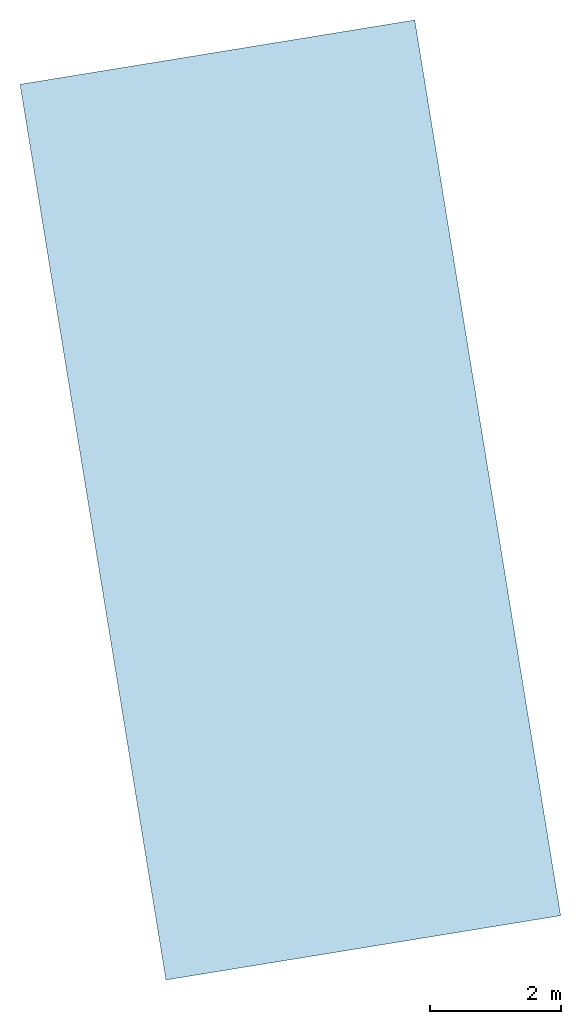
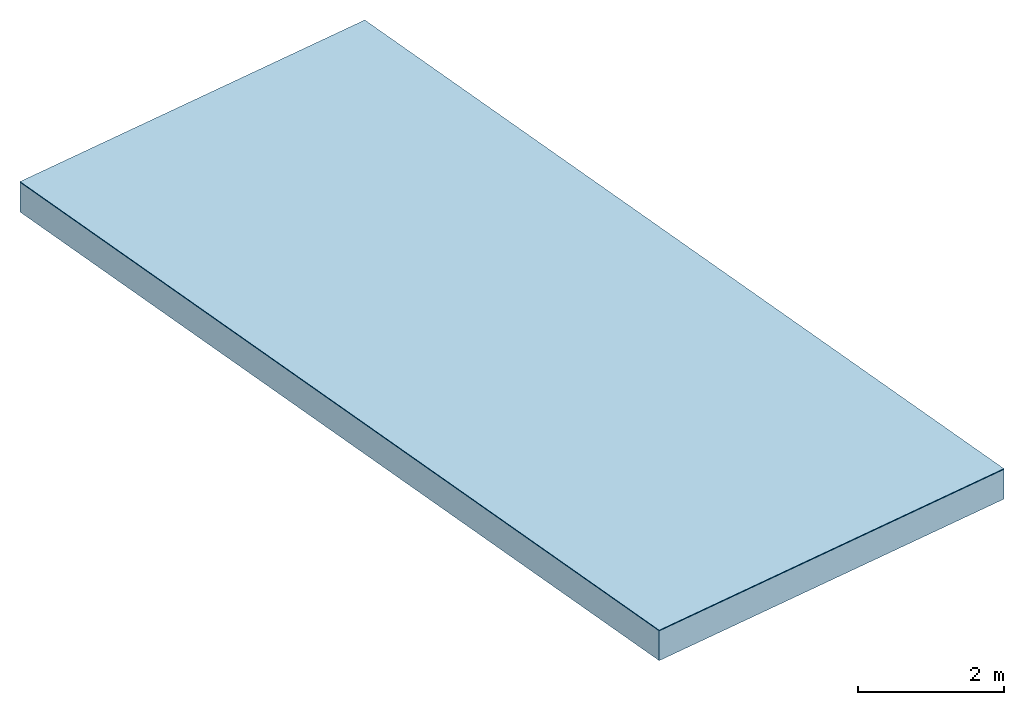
# One storey: 2 slabs.
"""IFC2X3 building model written with IfcOpenShell, lengths in millimetres."""

import ifcopenshell
import ifcopenshell.guid

model = None  # the IFC model being written
_history = None  # IfcOwnerHistory: only IFC2X3 demands one
_inside = {}  # id of a spatial element -> (the spatial element, [elements in it])
_under = {}  # id of a project, library or spatial element -> (it, [spatial elements below it])
_declared = {}  # id of a project -> (the project, [libraries it declares])
_typed = {}  # id of a type object -> (the type object, [elements of that type])
_made_of = {}  # id of a material, layer set ... -> (it, [elements and type objects made of it])


def new_model(schema):
    """Start an empty IFC model of exactly this schema.

    Asked for "IFC4X3", IfcOpenShell would pick the latest addendum, in which some entities
    have other attributes; the version numbers below select the first issue.
    IFC2X3 requires an IfcOwnerHistory on every rooted entity: one is made here for all.
    """
    global model, _history
    if schema == "IFC4X3":
        model = ifcopenshell.file(schema_version=(4, 3, 0, 0))
    else:
        model = ifcopenshell.file(schema=schema)
    _inside.clear()
    _under.clear()
    _declared.clear()
    _typed.clear()
    _made_of.clear()
    _history = None
    if model.schema == "IFC2X3":
        org = make("IfcOrganization", Name="unknown")
        user = make(
            "IfcPersonAndOrganization",
            ThePerson=make("IfcPerson", FamilyName="unknown"),
            TheOrganization=org,
        )
        app = make(
            "IfcApplication",
            ApplicationDeveloper=org,
            Version="unknown",
            ApplicationFullName="unknown",
            ApplicationIdentifier="unknown",
        )
        _history = make(
            "IfcOwnerHistory",
            OwningUser=user,
            OwningApplication=app,
            ChangeAction="ADDED",
            CreationDate=0,
        )
    return model


def make(cls, **values):
    """One entity of the class cls with the attributes given. An attribute that is None is left unset."""
    return model.create_entity(
        cls, **{name: value for name, value in values.items() if value is not None}
    )


def entity(cls, *values):
    """Any entity or typed value of the class cls, its attributes in the order of the schema. None: left unset."""
    e = model.create_entity(cls)
    for i, value in enumerate(values):
        if value is not None:
            e[i] = value
    return e


def rooted(cls, **values):
    """An entity with a GlobalId (a new one), such as an element, a storey or a relation."""
    return make(cls, GlobalId=ifcopenshell.guid.new(), OwnerHistory=_history, **values)


def si_unit(unit_type, name, prefix=None):
    """IfcSIUnit, for example si_unit("LENGTHUNIT", "METRE", prefix="MILLI")."""
    return make("IfcSIUnit", UnitType=unit_type, Prefix=prefix, Name=name)


def converted_unit(unit_type, name, factor, base, dimensions=None, offset=None):
    """IfcConversionBasedUnit, such as the inch: factor (a typed value) times the base unit."""
    return make(
        "IfcConversionBasedUnit"
        if offset is None
        else "IfcConversionBasedUnitWithOffset",
        ConversionOffset=offset,
        Dimensions=None
        if dimensions is None
        else entity("IfcDimensionalExponents", *dimensions),
        UnitType=unit_type,
        Name=name,
        ConversionFactor=make(
            "IfcMeasureWithUnit", ValueComponent=factor, UnitComponent=base
        ),
    )


def derived_unit(unit_type, elements):
    """IfcDerivedUnit: a product of units, each with its exponent."""
    return make(
        "IfcDerivedUnit",
        Elements=[
            make("IfcDerivedUnitElement", Unit=unit, Exponent=power)
            for unit, power in elements
        ],
        UnitType=unit_type,
    )


def assignment(units):
    """IfcUnitAssignment: the units of a project."""
    return None if units is None else make("IfcUnitAssignment", Units=units)


def point(xyz):
    """IfcCartesianPoint."""
    return None if xyz is None else make("IfcCartesianPoint", Coordinates=xyz)


def direction(xyz):
    """IfcDirection."""
    return None if xyz is None else make("IfcDirection", DirectionRatios=xyz)


def frame(location, z_axis=None, x_axis=None):
    """IfcAxis2Placement3D, a coordinate frame: its origin and axes. An axis left out is left unset."""
    return make(
        "IfcAxis2Placement3D",
        Location=point(location),
        Axis=direction(z_axis),
        RefDirection=direction(x_axis),
    )


def origin():
    """The frame at (0, 0, 0) with its axes left unset."""
    return frame((0.0, 0.0, 0.0))


def origin_with_axes():
    """The frame at (0, 0, 0) with the z axis (0, 0, 1) and the x axis (1, 0, 0) written out."""
    return frame((0.0, 0.0, 0.0), z_axis=(0.0, 0.0, 1.0), x_axis=(1.0, 0.0, 0.0))


def place(relative_to, where):
    """IfcLocalPlacement: puts the frame where relative to a parent placement (None: the world)."""
    return make(
        "IfcLocalPlacement", PlacementRelTo=relative_to, RelativePlacement=where
    )


def context(
    kind, dimensions, precision=None, world=None, true_north=None, identifier=None
):
    """IfcGeometricRepresentationContext, for example the 3D "Model" context."""
    return make(
        "IfcGeometricRepresentationContext",
        ContextIdentifier=identifier,
        ContextType=kind,
        CoordinateSpaceDimension=dimensions,
        Precision=precision,
        WorldCoordinateSystem=world,
        TrueNorth=true_north,
    )


def subcontext(parent, identifier, kind, view, scale=None):
    """IfcGeometricRepresentationSubContext, for example "Body" below "Model"."""
    return make(
        "IfcGeometricRepresentationSubContext",
        ContextIdentifier=identifier,
        ContextType=kind,
        ParentContext=parent,
        TargetScale=scale,
        TargetView=view,
    )


def project(units=None, contexts=None):
    """IfcProject with its units and contexts."""
    return rooted(
        "IfcProject",
        Name="project",
        RepresentationContexts=contexts,
        UnitsInContext=assignment(units),
    )


def spatial(cls, under=None, at=None, **own):
    """A site, building, storey or space (cls), placed at a placement, below another one or the project."""
    s = rooted(cls, ObjectPlacement=at, **own)
    if under is not None:
        _under.setdefault(under.id(), (under, []))[1].append(s)
    return s


def faces_of(points, faces, orient=None, outer=None):
    """IfcFace entities. A face is a list of loops; a loop is a list of indices into points, from 0.

    orient and outer hold one flag for each loop. By default every Orientation is true, the
    first loop of a face is its IfcFaceOuterBound and the others are IfcFaceBound.
    """
    made = []
    for i, loops in enumerate(faces):
        bounds = []
        for j, loop in enumerate(loops):
            is_outer = j == 0 if outer is None else outer[i][j]
            bounds.append(
                make(
                    "IfcFaceOuterBound" if is_outer else "IfcFaceBound",
                    Bound=make("IfcPolyLoop", Polygon=[points[k] for k in loop]),
                    Orientation=True if orient is None else orient[i][j],
                )
            )
        made.append(make("IfcFace", Bounds=bounds))
    return made


def faceted_brep(points, faces, orient=None, outer=None, voids=None):
    """IfcFacetedBrep: a solid bounded by flat faces; with voids (closed shells), ...WithVoids."""
    shared = [point(p) for p in points]
    hull = make("IfcClosedShell", CfsFaces=faces_of(shared, faces, orient, outer))
    if voids is None:
        return make("IfcFacetedBrep", Outer=hull)
    return make(
        "IfcFacetedBrepWithVoids",
        Outer=hull,
        Voids=[
            make(cls, CfsFaces=faces_of(shared, fs, o, b)) for cls, fs, o, b in voids
        ],
    )


def shape(context_of_items, identifier, shape_type, items):
    """IfcShapeRepresentation: the items that make up one representation, for example the "Body"."""
    return make(
        "IfcShapeRepresentation",
        ContextOfItems=context_of_items,
        RepresentationIdentifier=identifier,
        RepresentationType=shape_type,
        Items=items,
    )


def material(Name=None, Category=None):
    """IfcMaterial."""
    return make("IfcMaterial", Name=Name, Category=Category)


def layer(
    of_material, thickness, ventilated=None, Name=None, Category=None, Priority=None
):
    """IfcMaterialLayer: one layer of a wall or slab, of a material (None: an air gap)."""
    return make(
        "IfcMaterialLayer",
        Material=of_material,
        LayerThickness=thickness,
        IsVentilated=ventilated,
        Name=Name,
        Category=Category,
        Priority=Priority,
    )


def layer_set(layers, Name=None):
    """IfcMaterialLayerSet."""
    return make("IfcMaterialLayerSet", MaterialLayers=layers, LayerSetName=Name)


def made_of(thing, what):
    """Note that an element or type object is made of a material, layer set ...; save() writes the relation."""
    if what is not None:
        _made_of.setdefault(what.id(), (what, []))[1].append(thing)
    return thing


def type_object(cls, material=None, **own):
    """A type object (cls), such as IfcWallType, which elements share."""
    return made_of(rooted(cls, **own), material)


def element(
    cls,
    number,
    at=None,
    inside=None,
    cuts=None,
    type_object=None,
    material=None,
    context=None,
    identifier="Body",
    shape_type=None,
    held_by="IfcProductDefinitionShape",
    body=None,
    shapes=None,
    **own,
):
    """One element of the class cls, such as IfcWall. Its Tag is "e" and its number.

    at: its placement. inside: the storey or other place that contains it. cuts: it is an
    opening in that element (IfcRelVoidsElement). A single representation is given by context,
    identifier, shape_type and body (its items); several are given by shapes. held_by: the class
    of the entity that holds the representations. save() writes the other relations.
    """
    e = rooted(cls, Tag="e%d" % number, ObjectPlacement=at, **own)
    if body is not None:
        shapes = [shape(context, identifier, shape_type, body)]
    if shapes is not None:
        e.Representation = make(held_by, Representations=shapes)
    if inside is not None:
        _inside.setdefault(inside.id(), (inside, []))[1].append(e)
    if cuts is not None:
        rooted(
            "IfcRelVoidsElement", RelatingBuildingElement=cuts, RelatedOpeningElement=e
        )
    if type_object is not None:
        _typed.setdefault(type_object.id(), (type_object, []))[1].append(e)
    return made_of(e, material)


def aggregate(whole, parts):
    """IfcRelAggregates: a whole, such as a stair, and the parts it consists of."""
    return rooted("IfcRelAggregates", RelatingObject=whole, RelatedObjects=parts)


def save(model, path):
    """Write the relations noted so far, then the file.

    IfcRelAggregates (storeys below a building ...), IfcRelContainedInSpatialStructure (elements
    in a storey), IfcRelDefinesByType, IfcRelAssociatesMaterial and IfcRelDeclares: one each for
    every whole, place, type object, material and project.
    """
    for whole, parts in _under.values():
        aggregate(whole, parts)
    for where, things in _inside.values():
        rooted(
            "IfcRelContainedInSpatialStructure",
            RelatedElements=things,
            RelatingStructure=where,
        )
    for kind, things in _typed.values():
        rooted("IfcRelDefinesByType", RelatedObjects=things, RelatingType=kind)
    for what, things in _made_of.values():
        rooted("IfcRelAssociatesMaterial", RelatedObjects=things, RelatingMaterial=what)
    for by, libraries in _declared.values():
        rooted("IfcRelDeclares", RelatingContext=by, RelatedDefinitions=libraries)
    model.write(path)


model = new_model("IFC2X3")

# Units and contexts
model_context = context("Model", 3, precision=0.01, world=origin(), true_north=direction((6.12323399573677e-17, 1.0)))
plan_context = context("Plan", 3, precision=1e-05, world=origin_with_axes())
body_context = subcontext(model_context, "Body", "Model", "MODEL_VIEW")
ifc_project = project(units=[converted_unit("PLANEANGLEUNIT", "DEGREE", entity("IfcPositiveLengthMeasure", 0.0174532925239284), si_unit("PLANEANGLEUNIT", "RADIAN"), dimensions=[0, 0, 0, 0, 0, 0, 0]), si_unit("AREAUNIT", "SQUARE_METRE"), si_unit("LENGTHUNIT", "METRE", prefix="MILLI"), si_unit("MASSUNIT", "GRAM", prefix="KILO"), si_unit("POWERUNIT", "WATT"), si_unit("PRESSUREUNIT", "PASCAL", prefix="KILO"), si_unit("FORCEUNIT", "NEWTON", prefix="KILO"), si_unit("ELECTRICVOLTAGEUNIT", "VOLT"), si_unit("ELECTRICCURRENTUNIT", "AMPERE"), si_unit("THERMODYNAMICTEMPERATUREUNIT", "DEGREE_CELSIUS"), si_unit("TIMEUNIT", "SECOND"), si_unit("VOLUMEUNIT", "CUBIC_METRE"), derived_unit("LINEARVELOCITYUNIT", [(si_unit("LENGTHUNIT", "METRE"), 1), (si_unit("TIMEUNIT", "SECOND"), -1)]), derived_unit("VOLUMETRICFLOWRATEUNIT", [(si_unit("VOLUMEUNIT", "CUBIC_METRE"), 1), (si_unit("TIMEUNIT", "SECOND"), -1)]), derived_unit("THERMALTRANSMITTANCEUNIT", [(si_unit("POWERUNIT", "WATT"), 1), (si_unit("THERMODYNAMICTEMPERATUREUNIT", "KELVIN"), -1), (si_unit("AREAUNIT", "SQUARE_METRE"), -1)]), derived_unit("SOUNDPRESSUREUNIT", [(si_unit("PRESSUREUNIT", "PASCAL"), 1)])], contexts=[model_context, plan_context])

# Site, building, storey
site_placement = place(None, frame((-305029.896016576, -232111.759730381, 0.0), z_axis=(0.0, 0.0, 1.0), x_axis=(-0.160806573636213, 0.986985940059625, 0.0)))
site = spatial("IfcSite", under=ifc_project, at=site_placement, Name="Default", CompositionType="ELEMENT")
building_placement = place(site_placement, frame((0.0, 0.0, 0.0), z_axis=(0.0, 0.0, 1.0), x_axis=(1.0, -2.77555756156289e-17, 0.0)))
building = spatial("IfcBuilding", under=site, at=building_placement, Name="br001-a-200-1-0001", CompositionType="ELEMENT")
storey_placement = place(building_placement, frame((0.0, 0.0, 51360.0000000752), z_axis=(0.0, 0.0, 1.0), x_axis=(1.0, -2.77555756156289e-17, 0.0)))
storey = spatial("IfcBuildingStorey", under=building, at=storey_placement, Name="H01-Nivå D+0,36", CompositionType="ELEMENT", Elevation=51360.0000000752)

# Slabs
ifc_material_1 = material(Name="_NSW Betong")
ifc_layer_1 = layer(ifc_material_1, 500.0)
ifc_layer_set_1 = layer_set([ifc_layer_1], Name="Floor:B250 - Betong - 500 mm")
slab_type_1 = type_object("IfcSlabType", Name="Floor:B250 - Betong - 500 mm", PredefinedType="FLOOR", material=ifc_layer_set_1)
slab_1_placement = place(storey_placement, frame((1099478.50237423, -845820.784591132, -510.0), z_axis=(0.0, 0.0, 1.0), x_axis=(1.0, -2.77555756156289e-17, 0.0)))
element("IfcSlab", 1, at=slab_1_placement, inside=storey, type_object=slab_type_1, Name="Floor:B250 - Betong - 500 mm", ObjectType="Floor:B250 - Betong - 500 mm", PredefinedType="FLOOR", context=body_context, shape_type="Brep", body=[
    faceted_brep([(49535.0962101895, 120789.421370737, 500.0), (49535.0962101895, 126908.904580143, 500.0), (63419.6397353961, 126908.904580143, 500.0), (63419.6397353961, 120789.421370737, 500.0), (49535.0962101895, 126908.904580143, 8.5265128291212e-13), (49535.0962101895, 120789.421370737, 8.5265128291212e-13), (63419.6397353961, 120789.421370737, 1.02318153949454e-12), (63419.6397353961, 126908.904580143, 8.5265128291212e-13)], [[[0, 1, 2, 3]], [[4, 5, 6, 7]], [[3, 2, 7, 6]], [[2, 1, 4, 7]], [[1, 0, 5, 4]], [[0, 3, 6, 5]]], orient=[[False], [False], [False], [False], [False], [False]]),
])
ifc_material_2 = material(Name="A255 - Flis")
ifc_layer_2 = layer(ifc_material_2, 10.0)
ifc_layer_set_2 = layer_set([ifc_layer_2], Name="Floor:Eksisterende terrazzoflis")
slab_type_2 = type_object("IfcSlabType", Name="Floor:Eksisterende terrazzoflis", PredefinedType="FLOOR", material=ifc_layer_set_2)
slab_2_placement = place(storey_placement, frame((0.0, 0.0, 0.0), z_axis=(0.0, 0.0, 1.0), x_axis=(1.0, -2.77555756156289e-17, 0.0)))
element("IfcSlab", 2, at=slab_2_placement, inside=storey, type_object=slab_type_2, Name="Floor:Eksisterende terrazzoflis", ObjectType="Floor:Eksisterende terrazzoflis", PredefinedType="FLOOR", context=body_context, shape_type="Brep", body=[
    faceted_brep([(1149013.59858442, -725031.363220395, 1.13686837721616e-13), (1149013.59858442, -718911.880010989, 1.13686837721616e-13), (1162898.14210962, -718911.880010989, 1.13686837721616e-13), (1162898.14210962, -725031.363220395, 0.0), (1149013.59858442, -718911.880010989, -9.99999999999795), (1149013.59858442, -725031.363220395, -9.99999999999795), (1162898.14210962, -725031.363220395, -9.99999999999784), (1162898.14210962, -718911.880010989, -9.99999999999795)], [[[0, 1, 2, 3]], [[4, 5, 6, 7]], [[3, 2, 7, 6]], [[2, 1, 4, 7]], [[1, 0, 5, 4]], [[0, 3, 6, 5]]], orient=[[False], [False], [False], [False], [False], [False]]),
])

save(model, "model.ifc")
